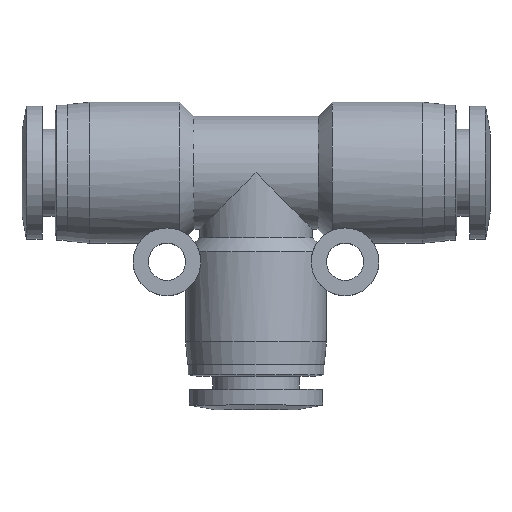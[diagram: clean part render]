
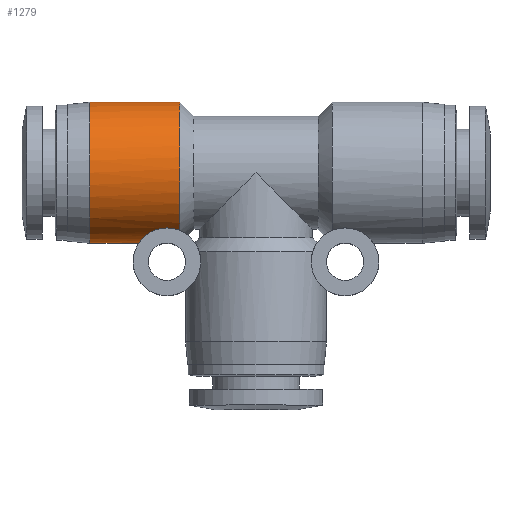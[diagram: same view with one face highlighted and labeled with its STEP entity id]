
A CAD part, top view. The second image highlights one B-rep face of the part: STEP entity #1279.
In plain terms, the highlighted cylindrical face has radius 6.25 mm (diameter 12.5 mm), a partial arc.
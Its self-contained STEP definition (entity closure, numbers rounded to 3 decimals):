
#39 = DIRECTION ( 'NONE',  ( 1., 0., 0. ) ) ;
#143 = CARTESIAN_POINT ( 'NONE',  ( -14.75, 0., 0. ) ) ;
#222 = CARTESIAN_POINT ( 'NONE',  ( -8.079, -4.902, 3.877 ) ) ;
#240 = CARTESIAN_POINT ( 'NONE',  ( -8.624, -4.986, 3.769 ) ) ;
#256 = CARTESIAN_POINT ( 'NONE',  ( -6.989, -5.03, 3.714 ) ) ;
#261 = CARTESIAN_POINT ( 'NONE',  ( -14.75, -6.25, 0. ) ) ;
#462 = ORIENTED_EDGE ( 'NONE', *, *, #573, .T. ) ;
#468 = FACE_OUTER_BOUND ( 'NONE', #2554, .T. ) ;
#474 = EDGE_CURVE ( 'NONE', #1528, #2299, #3529, .T. ) ;
#491 = CARTESIAN_POINT ( 'NONE',  ( -9.129, -5.163, 3.522 ) ) ;
#500 = CIRCLE ( 'NONE', #1648, 6.25 ) ;
#526 = CARTESIAN_POINT ( 'NONE',  ( -9.239, -5.215, 3.444 ) ) ;
#546 = CARTESIAN_POINT ( 'NONE',  ( -9.66, -5.471, 3.023 ) ) ;
#547 = CARTESIAN_POINT ( 'NONE',  ( -6.75, -5.129, 3.571 ) ) ;
#573 = EDGE_CURVE ( 'NONE', #2299, #1937, #3317, .T. ) ;
#600 = DIRECTION ( 'NONE',  ( 1., 0., 0. ) ) ;
#630 = ORIENTED_EDGE ( 'NONE', *, *, #1535, .F. ) ;
#650 = VECTOR ( 'NONE', #600, 1000. ) ;
#720 = VERTEX_POINT ( 'NONE', #547 ) ;
#751 = CARTESIAN_POINT ( 'NONE',  ( -10.185, -5.954, 1.925 ) ) ;
#801 = CARTESIAN_POINT ( 'NONE',  ( -10.353, -6.172, 0.995 ) ) ;
#984 = DIRECTION ( 'NONE',  ( 1., 0., 0. ) ) ;
#989 = ORIENTED_EDGE ( 'NONE', *, *, #1068, .T. ) ;
#1016 = CARTESIAN_POINT ( 'NONE',  ( -10.392, -6.229, 0.586 ) ) ;
#1035 = CARTESIAN_POINT ( 'NONE',  ( -9.815, -5.59, 2.796 ) ) ;
#1067 = CARTESIAN_POINT ( 'NONE',  ( -7.803, -4.898, 3.882 ) ) ;
#1068 = EDGE_CURVE ( 'NONE', #1937, #720, #3354, .T. ) ;
#1121 = VECTOR ( 'NONE', #1526, 1000. ) ;
#1241 = DIRECTION ( 'NONE',  ( 0., 1., 0. ) ) ;
#1279 = ADVANCED_FACE ( 'NONE', ( #468 ), #1568, .T. ) ;
#1304 = CARTESIAN_POINT ( 'NONE',  ( -9.123, -5.161, 3.526 ) ) ;
#1320 = CARTESIAN_POINT ( 'NONE',  ( -10.27, -6.061, 1.525 ) ) ;
#1526 = DIRECTION ( 'NONE',  ( 1., 0., 0. ) ) ;
#1528 = VERTEX_POINT ( 'NONE', #3466 ) ;
#1535 = EDGE_CURVE ( 'NONE', #1528, #2120, #3163, .T. ) ;
#1568 = CYLINDRICAL_SURFACE ( 'NONE', #1851, 6.25 ) ;
#1588 = CARTESIAN_POINT ( 'NONE',  ( -8.878, -5.061, 3.668 ) ) ;
#1624 = CARTESIAN_POINT ( 'NONE',  ( -7.667, -4.906, 3.873 ) ) ;
#1638 = CARTESIAN_POINT ( 'NONE',  ( -10.26, -6.047, 1.579 ) ) ;
#1648 = AXIS2_PLACEMENT_3D ( 'NONE', #1802, #984, #3461 ) ;
#1677 = CARTESIAN_POINT ( 'NONE',  ( -10.75, -6.25, 0. ) ) ;
#1802 = CARTESIAN_POINT ( 'NONE',  ( -6.75, 0., 0. ) ) ;
#1840 = CARTESIAN_POINT ( 'NONE',  ( -10.406, -6.25, 0. ) ) ;
#1851 = AXIS2_PLACEMENT_3D ( 'NONE', #2666, #2390, #3494 ) ;
#1878 = CARTESIAN_POINT ( 'NONE',  ( -10.255, -6.041, 1.602 ) ) ;
#1906 = CARTESIAN_POINT ( 'NONE',  ( -10.104, -5.86, 2.186 ) ) ;
#1924 = CARTESIAN_POINT ( 'NONE',  ( -6.75, -5.129, 3.571 ) ) ;
#1937 = VERTEX_POINT ( 'NONE', #2847 ) ;
#2109 = CARTESIAN_POINT ( 'NONE',  ( -9.769, -5.553, 2.869 ) ) ;
#2120 = VERTEX_POINT ( 'NONE', #3432 ) ;
#2126 = CARTESIAN_POINT ( 'NONE',  ( -8.999, -5.106, 3.606 ) ) ;
#2143 = CARTESIAN_POINT ( 'NONE',  ( -9.492, -5.355, 3.224 ) ) ;
#2158 = CARTESIAN_POINT ( 'NONE',  ( -8.494, -4.957, 3.807 ) ) ;
#2299 = VERTEX_POINT ( 'NONE', #261 ) ;
#2379 = CARTESIAN_POINT ( 'NONE',  ( -9.577, -5.41, 3.131 ) ) ;
#2390 = DIRECTION ( 'NONE',  ( 1., 0., 0. ) ) ;
#2411 = CARTESIAN_POINT ( 'NONE',  ( -9.672, -5.479, 3.007 ) ) ;
#2426 = CARTESIAN_POINT ( 'NONE',  ( -10.307, -6.109, 1.321 ) ) ;
#2534 = AXIS2_PLACEMENT_3D ( 'NONE', #143, #39, #1241 ) ;
#2554 = EDGE_LOOP ( 'NONE', ( #3270, #462, #989, #2795, #630 ) ) ;
#2666 = CARTESIAN_POINT ( 'NONE',  ( -10.75, 0., 0. ) ) ;
#2667 = EDGE_CURVE ( 'NONE', #2120, #720, #500, .T. ) ;
#2669 = CARTESIAN_POINT ( 'NONE',  ( -9.902, -5.665, 2.643 ) ) ;
#2689 = CARTESIAN_POINT ( 'NONE',  ( -8.218, -4.914, 3.862 ) ) ;
#2704 = CARTESIAN_POINT ( 'NONE',  ( -9.16, -5.177, 3.501 ) ) ;
#2721 = CARTESIAN_POINT ( 'NONE',  ( -7.248, -4.959, 3.805 ) ) ;
#2736 = CARTESIAN_POINT ( 'NONE',  ( -9.664, -5.473, 3.018 ) ) ;
#2795 = ORIENTED_EDGE ( 'NONE', *, *, #2667, .F. ) ;
#2847 = CARTESIAN_POINT ( 'NONE',  ( -10.406, -6.25, 0. ) ) ;
#2938 = CARTESIAN_POINT ( 'NONE',  ( -9.956, -5.714, 2.535 ) ) ;
#2953 = CARTESIAN_POINT ( 'NONE',  ( -9.311, -5.252, 3.388 ) ) ;
#2969 = CARTESIAN_POINT ( 'NONE',  ( -10.25, -6.035, 1.624 ) ) ;
#2987 = CARTESIAN_POINT ( 'NONE',  ( -10.337, -6.149, 1.128 ) ) ;
#3003 = CARTESIAN_POINT ( 'NONE',  ( -9.713, -5.51, 2.951 ) ) ;
#3163 = LINE ( 'NONE', #3198, #1121 ) ;
#3198 = CARTESIAN_POINT ( 'NONE',  ( -10.75, 6.25, 0. ) ) ;
#3209 = CARTESIAN_POINT ( 'NONE',  ( -9.203, -5.198, 3.471 ) ) ;
#3243 = CARTESIAN_POINT ( 'NONE',  ( -9.357, -5.277, 3.349 ) ) ;
#3270 = ORIENTED_EDGE ( 'NONE', *, *, #474, .T. ) ;
#3276 = CARTESIAN_POINT ( 'NONE',  ( -10.252, -6.037, 1.617 ) ) ;
#3317 = LINE ( 'NONE', #1677, #650 ) ;
#3354 = B_SPLINE_CURVE_WITH_KNOTS ( 'NONE', 3,
 ( #1840, #3550, #1016, #801, #2987, #2426, #3498, #1320, #1638, #1878, #3276, #2969, #751, #1906, #2938, #2669, #1035, #2109, #3003, #3514, #2411, #2736, #546, #2379, #2143, #3243, #2953, #526, #3209, #2704, #3535, #491, #1304, #2126, #1588, #240, #2158, #2689, #222, #1067, #1624, #2721, #256, #1924 ),
 .UNSPECIFIED., .F., .F.,
 ( 4, 2, 2, 1, 1, 1, 2, 2, 2, 2, 1, 1, 1, 2, 2, 2, 2, 1, 1, 2, 2, 2, 2, 2, 2, 4 ),
 ( 0.5, 0.563, 0.594, 0.609, 0.617, 0.621, 0.623, 0.625, 0.688, 0.719, 0.734, 0.742, 0.746, 0.748, 0.75, 0.781, 0.797, 0.805, 0.809, 0.811, 0.813, 0.844, 0.875, 0.906, 0.938, 1. ),
 .UNSPECIFIED. ) ;
#3432 = CARTESIAN_POINT ( 'NONE',  ( -6.75, 6.25, 0. ) ) ;
#3461 = DIRECTION ( 'NONE',  ( 0., 1., 0. ) ) ;
#3466 = CARTESIAN_POINT ( 'NONE',  ( -14.75, 6.25, 0. ) ) ;
#3494 = DIRECTION ( 'NONE',  ( 0., 1., 0. ) ) ;
#3498 = CARTESIAN_POINT ( 'NONE',  ( -10.291, -6.088, 1.417 ) ) ;
#3514 = CARTESIAN_POINT ( 'NONE',  ( -9.684, -5.488, 2.99 ) ) ;
#3529 = CIRCLE ( 'NONE', #2534, 6.25 ) ;
#3535 = CARTESIAN_POINT ( 'NONE',  ( -9.141, -5.169, 3.514 ) ) ;
#3550 = CARTESIAN_POINT ( 'NONE',  ( -10.405, -6.25, 0.299 ) ) ;
